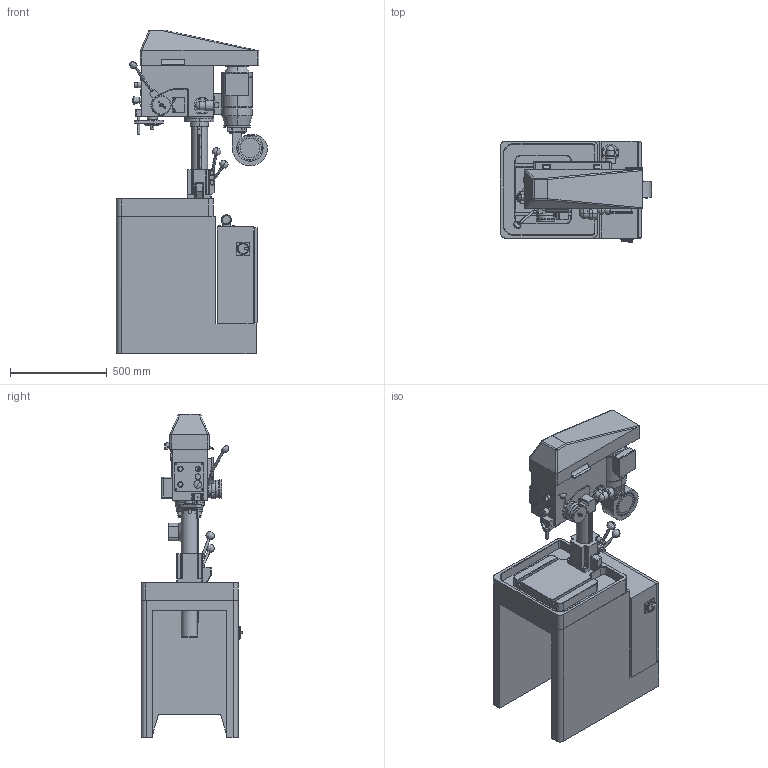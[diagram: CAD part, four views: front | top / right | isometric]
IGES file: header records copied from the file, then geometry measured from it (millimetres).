
Global section: file name: No Iges File Name specified; native system: AutoDesk Inventor R12.0; preprocessor: AutoDesk Inventor Iges Exporter R12.0; date: 20100301.160505; units: millimetre
Bounding box: 779.5 x 525 x 1670.7 mm (x, y, z)
Volume: 183707293.1 mm3; surface area: 5692493.6 mm2
Topology: 49 solids, 49 shells, 2632 faces, 6893 edges, 4403 vertices
Faces by surface type: plane 1224, cylinder 481, bspline 356, revolution 337, cone 116, torus 92, sphere 26
